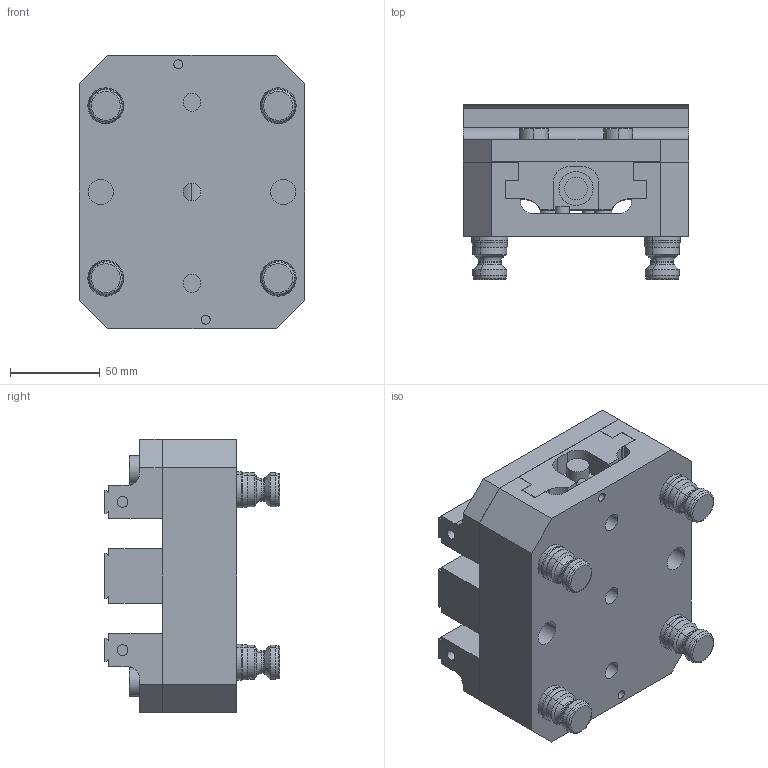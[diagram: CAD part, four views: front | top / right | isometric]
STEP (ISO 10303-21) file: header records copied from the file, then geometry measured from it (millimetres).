
FILE_DESCRIPTION (( 'STEP AP214' ), '1' );
FILE_NAME ('D_R96-DV56-J1.STEP', '2020-03-13T16:49:07', ( '' ), ( '' ), 'SwSTEP 2.0', 'SolidWorks 2018', '' );
FILE_SCHEMA (( 'AUTOMOTIVE_DESIGN' ));
Length unit declared in the file: millimetre
Products named in the file (9): D_PS20F_HARD TURN; D_V562M-2RDV; D_V562M-5CDV; D_R96-DV56-J1; D_V562M-5F; D_V562M-2; D_DV56-J1; D_DV56-1; D_V562M-5
Assembly tree (11 placements, depth 3):
  D_R96-DV56-J1
    D_DV56-J1
      D_DV56-1
      D_V562M-2RDV
      D_V562M-5CDV
      D_V562M-5F
      D_V562M-2
      D_V562M-5
    D_PS20F_HARD TURN  x4
Bounding box: 125.73 x 97.66 x 152.4 mm (x, y, z)
Volume: 942868 mm3; surface area: 197759 mm2
Topology: 11 solids, 11 shells, 502 faces, 1154 edges, 724 vertices
Faces by surface type: cylinder 208, plane 190, torus 64, cone 40
Entity records: 13669 total; most frequent: CARTESIAN_POINT 2482, DIRECTION 2098, ORIENTED_EDGE 1852, EDGE_CURVE 926, AXIS2_PLACEMENT_3D 806, VERTEX_POINT 604, VECTOR 486, LINE 486
